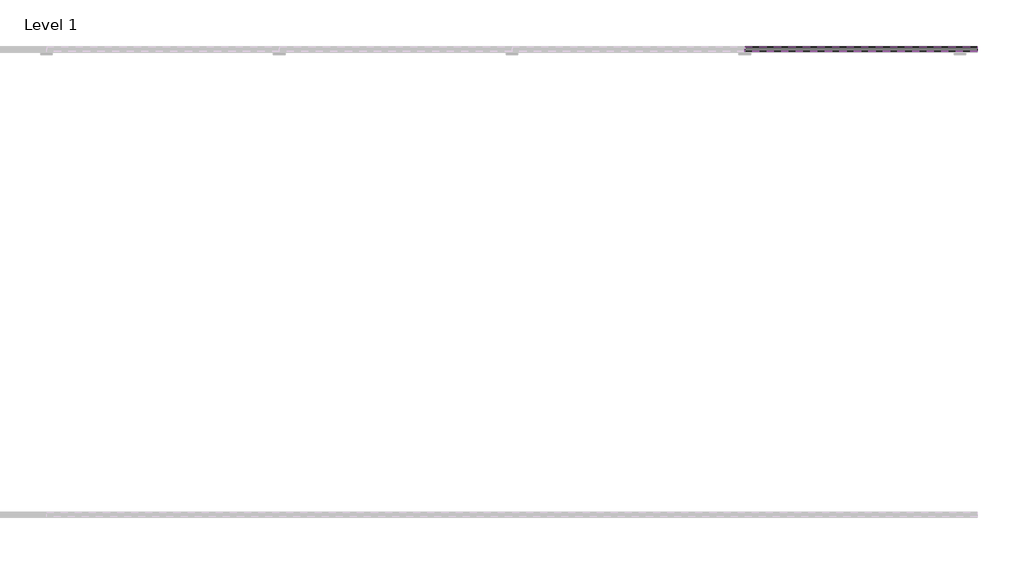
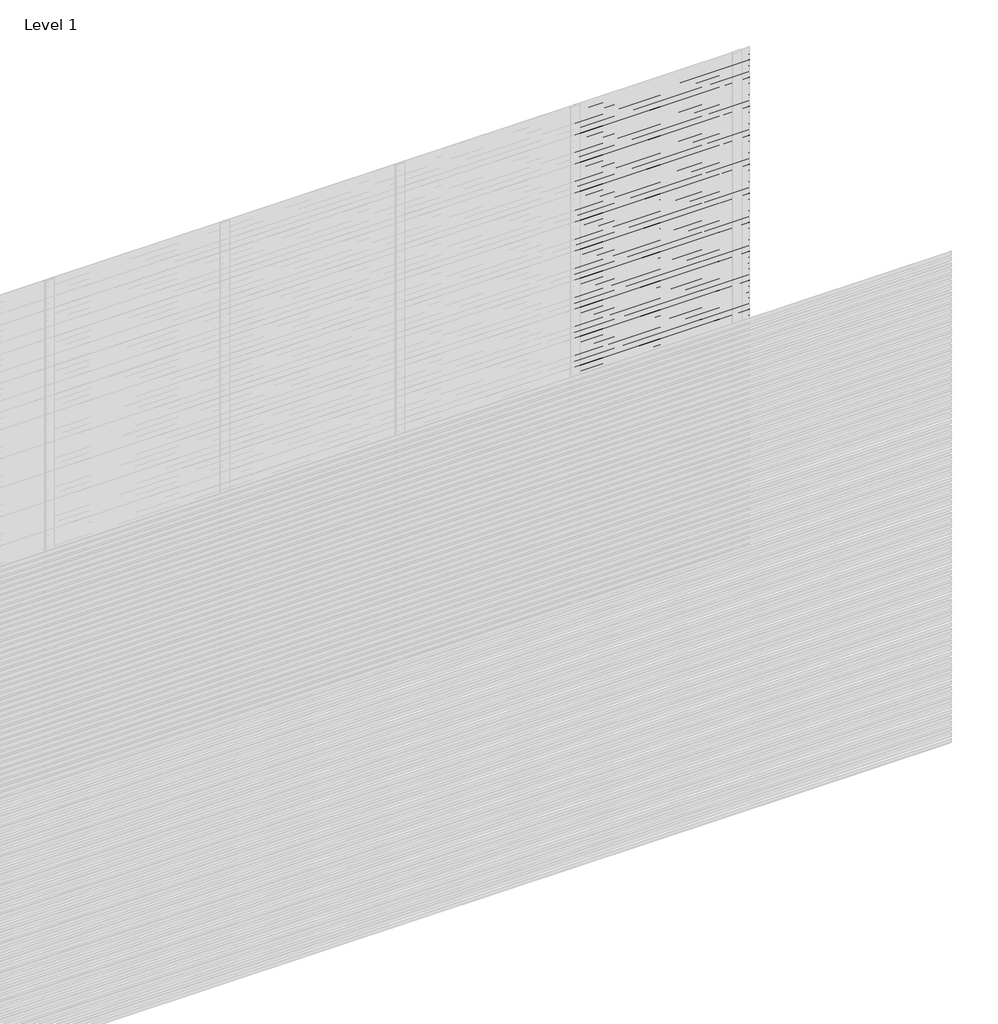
# One storey, part 25 of 25: 101 proxies.
"""IFC4 building model written with IfcOpenShell, lengths in millimetres."""

from ifc_helpers import new_model, si_unit, frame, origin, place, context, project, spatial, polyline, outline, extrude, element, save

model = new_model("IFC4")

# Units and contexts
model_context = context("Model", 3, world=origin())
ifc_project = project(units=[si_unit("LENGTHUNIT", "METRE", prefix="MILLI")], contexts=[model_context])

# Site, building, storey
site = spatial("IfcSite", under=ifc_project)
building = spatial("IfcBuilding", under=site)
storey = spatial("IfcBuildingStorey", under=building, Name="Level 1", Elevation=0.0)

# Proxies
placement = place(None, origin())
element("IfcBuildingElementProxy", 1, Name="Wall Sweeps", at=placement, inside=storey, context=model_context, shape_type="SweptSolid", body=[
    extrude(outline(polyline([(5.0, 560.0), (5.0, 548.942893), (24.0, 533.0), (24.0, 520.0), (3.0, 537.6210923), (3.0, 560.0), (5.0, 560.0)])), frame((4000.0, 0.0, 0.0), z_axis=(1.0, 0.0, 0.0), x_axis=(0.0, 1.0, 0.0)), (0.0, 0.0, 1.0), 1000.0),
])
element("IfcBuildingElementProxy", 2, Name="Wall Sweeps", at=placement, inside=storey, context=model_context, shape_type="SweptSolid", body=[
    extrude(outline(polyline([(5.0, 525.0), (5.0, 513.942893), (24.0, 498.0), (24.0, 485.0), (3.0, 502.6210923), (3.0, 525.0), (5.0, 525.0)])), frame((4000.0, 0.0, 0.0), z_axis=(1.0, 0.0, 0.0), x_axis=(0.0, 1.0, 0.0)), (0.0, 0.0, 1.0), 1000.0),
])
element("IfcBuildingElementProxy", 3, Name="Wall Sweeps", at=placement, inside=storey, context=model_context, shape_type="SweptSolid", body=[
    extrude(outline(polyline([(5.0, 490.0), (5.0, 478.942893), (24.0, 463.0), (24.0, 450.0), (3.0, 467.6210923), (3.0, 490.0), (5.0, 490.0)])), frame((4000.0, 0.0, 0.0), z_axis=(1.0, 0.0, 0.0), x_axis=(0.0, 1.0, 0.0)), (0.0, 0.0, 1.0), 1000.0),
])
element("IfcBuildingElementProxy", 4, Name="Wall Sweeps", at=placement, inside=storey, context=model_context, shape_type="SweptSolid", body=[
    extrude(outline(polyline([(5.0, 455.0), (5.0, 443.942893), (24.0, 428.0), (24.0, 415.0), (3.0, 432.6210923), (3.0, 455.0), (5.0, 455.0)])), frame((4000.0, 0.0, 0.0), z_axis=(1.0, 0.0, 0.0), x_axis=(0.0, 1.0, 0.0)), (0.0, 0.0, 1.0), 1000.0),
])
element("IfcBuildingElementProxy", 5, Name="Wall Sweeps", at=placement, inside=storey, context=model_context, shape_type="SweptSolid", body=[
    extrude(outline(polyline([(5.0, 420.0), (5.0, 408.942893), (24.0, 393.0), (24.0, 380.0), (3.0, 397.6210923), (3.0, 420.0), (5.0, 420.0)])), frame((4000.0, 0.0, 0.0), z_axis=(1.0, 0.0, 0.0), x_axis=(0.0, 1.0, 0.0)), (0.0, 0.0, 1.0), 1000.0),
])
element("IfcBuildingElementProxy", 6, Name="Wall Sweeps", at=placement, inside=storey, context=model_context, shape_type="SweptSolid", body=[
    extrude(outline(polyline([(5.0, 385.0), (5.0, 373.942893), (24.0, 358.0), (24.0, 345.0), (3.0, 362.6210923), (3.0, 385.0), (5.0, 385.0)])), frame((4000.0, 0.0, 0.0), z_axis=(1.0, 0.0, 0.0), x_axis=(0.0, 1.0, 0.0)), (0.0, 0.0, 1.0), 1000.0),
])
element("IfcBuildingElementProxy", 7, Name="Wall Sweeps", at=placement, inside=storey, context=model_context, shape_type="SweptSolid", body=[
    extrude(outline(polyline([(5.0, 350.0), (5.0, 338.942893), (24.0, 323.0), (24.0, 310.0), (3.0, 327.6210923), (3.0, 350.0), (5.0, 350.0)])), frame((4000.0, 0.0, 0.0), z_axis=(1.0, 0.0, 0.0), x_axis=(0.0, 1.0, 0.0)), (0.0, 0.0, 1.0), 1000.0),
])
element("IfcBuildingElementProxy", 8, Name="Wall Sweeps", at=placement, inside=storey, context=model_context, shape_type="SweptSolid", body=[
    extrude(outline(polyline([(5.0, 315.0), (5.0, 303.942893), (24.0, 288.0), (24.0, 275.0), (3.0, 292.6210923), (3.0, 315.0), (5.0, 315.0)])), frame((4000.0, 0.0, 0.0), z_axis=(1.0, 0.0, 0.0), x_axis=(0.0, 1.0, 0.0)), (0.0, 0.0, 1.0), 1000.0),
])
element("IfcBuildingElementProxy", 9, Name="Wall Sweeps", at=placement, inside=storey, context=model_context, shape_type="SweptSolid", body=[
    extrude(outline(polyline([(5.0, 280.0), (5.0, 268.942893), (24.0, 253.0), (24.0, 240.0), (3.0, 257.6210923), (3.0, 280.0), (5.0, 280.0)])), frame((4000.0, 0.0, 0.0), z_axis=(1.0, 0.0, 0.0), x_axis=(0.0, 1.0, 0.0)), (0.0, 0.0, 1.0), 1000.0),
])
element("IfcBuildingElementProxy", 10, Name="Wall Sweeps", at=placement, inside=storey, context=model_context, shape_type="SweptSolid", body=[
    extrude(outline(polyline([(5.0, 245.0), (5.0, 233.942893), (24.0, 218.0), (24.0, 205.0), (3.0, 222.6210923), (3.0, 245.0), (5.0, 245.0)])), frame((4000.0, 0.0, 0.0), z_axis=(1.0, 0.0, 0.0), x_axis=(0.0, 1.0, 0.0)), (0.0, 0.0, 1.0), 1000.0),
])
element("IfcBuildingElementProxy", 11, Name="Wall Sweeps", at=placement, inside=storey, context=model_context, shape_type="SweptSolid", body=[
    extrude(outline(polyline([(5.0, 210.0), (5.0, 198.942893), (24.0, 183.0), (24.0, 170.0), (3.0, 187.6210923), (3.0, 210.0), (5.0, 210.0)])), frame((4000.0, 0.0, 0.0), z_axis=(1.0, 0.0, 0.0), x_axis=(0.0, 1.0, 0.0)), (0.0, 0.0, 1.0), 1000.0),
])
element("IfcBuildingElementProxy", 12, Name="Wall Sweeps", at=placement, inside=storey, context=model_context, shape_type="SweptSolid", body=[
    extrude(outline(polyline([(5.0, 175.0), (5.0, 163.942893), (24.0, 148.0), (24.0, 135.0), (3.0, 152.6210923), (3.0, 175.0), (5.0, 175.0)])), frame((4000.0, 0.0, 0.0), z_axis=(1.0, 0.0, 0.0), x_axis=(0.0, 1.0, 0.0)), (0.0, 0.0, 1.0), 1000.0),
])
element("IfcBuildingElementProxy", 13, Name="Wall Sweeps", at=placement, inside=storey, context=model_context, shape_type="SweptSolid", body=[
    extrude(outline(polyline([(5.0, 140.0), (5.0, 128.942893), (24.0, 113.0), (24.0, 100.0), (3.0, 117.6210923), (3.0, 140.0), (5.0, 140.0)])), frame((4000.0, 0.0, 0.0), z_axis=(1.0, 0.0, 0.0), x_axis=(0.0, 1.0, 0.0)), (0.0, 0.0, 1.0), 1000.0),
])
element("IfcBuildingElementProxy", 14, Name="Wall Sweeps", at=placement, inside=storey, context=model_context, shape_type="SweptSolid", body=[
    extrude(outline(polyline([(5.0, 105.0), (5.0, 93.942893), (24.0, 78.0), (24.0, 65.0), (3.0, 82.6210923), (3.0, 105.0), (5.0, 105.0)])), frame((4000.0, 0.0, 0.0), z_axis=(1.0, 0.0, 0.0), x_axis=(0.0, 1.0, 0.0)), (0.0, 0.0, 1.0), 1000.0),
])
element("IfcBuildingElementProxy", 15, Name="Wall Sweeps", at=placement, inside=storey, context=model_context, shape_type="SweptSolid", body=[
    extrude(outline(polyline([(5.0, 70.0), (5.0, 58.942893), (24.0, 43.0), (24.0, 30.0), (3.0, 47.6210923), (3.0, 70.0), (5.0, 70.0)])), frame((4000.0, 0.0, 0.0), z_axis=(1.0, 0.0, 0.0), x_axis=(0.0, 1.0, 0.0)), (0.0, 0.0, 1.0), 1000.0),
])
element("IfcBuildingElementProxy", 16, Name="Wall Sweeps", at=placement, inside=storey, context=model_context, shape_type="SweptSolid", body=[
    extrude(outline(polyline([(5.0, 35.0), (5.0, 23.942893), (24.0, 8.0), (24.0, -5.0), (3.0, 12.6210923), (3.0, 35.0), (5.0, 35.0)])), frame((4000.0, 0.0, 0.0), z_axis=(1.0, 0.0, 0.0), x_axis=(0.0, 1.0, 0.0)), (0.0, 0.0, 1.0), 1000.0),
])
element("IfcBuildingElementProxy", 17, Name="Wall Sweeps", at=placement, inside=storey, context=model_context, shape_type="SweptSolid", body=[
    extrude(outline(polyline([(5.0, 2975.0), (5.0, 2963.942893), (24.0, 2948.0), (24.0, 2935.0), (3.0, 2952.6210923), (3.0, 2975.0), (5.0, 2975.0)])), frame((5000.0, 0.0, 0.0), z_axis=(1.0, 0.0, 0.0), x_axis=(0.0, 1.0, 0.0)), (0.0, 0.0, 1.0), 1000.0),
])
element("IfcBuildingElementProxy", 18, Name="Wall Sweeps", at=placement, inside=storey, context=model_context, shape_type="SweptSolid", body=[
    extrude(outline(polyline([(5.0, 2940.0), (5.0, 2928.942893), (24.0, 2913.0), (24.0, 2900.0), (3.0, 2917.6210923), (3.0, 2940.0), (5.0, 2940.0)])), frame((5000.0, 0.0, 0.0), z_axis=(1.0, 0.0, 0.0), x_axis=(0.0, 1.0, 0.0)), (0.0, 0.0, 1.0), 1000.0),
])
element("IfcBuildingElementProxy", 19, Name="Wall Sweeps", at=placement, inside=storey, context=model_context, shape_type="SweptSolid", body=[
    extrude(outline(polyline([(5.0, 2905.0), (5.0, 2893.942893), (24.0, 2878.0), (24.0, 2865.0), (3.0, 2882.6210923), (3.0, 2905.0), (5.0, 2905.0)])), frame((5000.0, 0.0, 0.0), z_axis=(1.0, 0.0, 0.0), x_axis=(0.0, 1.0, 0.0)), (0.0, 0.0, 1.0), 1000.0),
])
element("IfcBuildingElementProxy", 20, Name="Wall Sweeps", at=placement, inside=storey, context=model_context, shape_type="SweptSolid", body=[
    extrude(outline(polyline([(5.0, 2870.0), (5.0, 2858.942893), (24.0, 2843.0), (24.0, 2830.0), (3.0, 2847.6210923), (3.0, 2870.0), (5.0, 2870.0)])), frame((5000.0, 0.0, 0.0), z_axis=(1.0, 0.0, 0.0), x_axis=(0.0, 1.0, 0.0)), (0.0, 0.0, 1.0), 1000.0),
])
element("IfcBuildingElementProxy", 21, Name="Wall Sweeps", at=placement, inside=storey, context=model_context, shape_type="SweptSolid", body=[
    extrude(outline(polyline([(5.0, 2835.0), (5.0, 2823.942893), (24.0, 2808.0), (24.0, 2795.0), (3.0, 2812.6210923), (3.0, 2835.0), (5.0, 2835.0)])), frame((5000.0, 0.0, 0.0), z_axis=(1.0, 0.0, 0.0), x_axis=(0.0, 1.0, 0.0)), (0.0, 0.0, 1.0), 1000.0),
])
element("IfcBuildingElementProxy", 22, Name="Wall Sweeps", at=placement, inside=storey, context=model_context, shape_type="SweptSolid", body=[
    extrude(outline(polyline([(5.0, 2800.0), (5.0, 2788.942893), (24.0, 2773.0), (24.0, 2760.0), (3.0, 2777.6210923), (3.0, 2800.0), (5.0, 2800.0)])), frame((5000.0, 0.0, 0.0), z_axis=(1.0, 0.0, 0.0), x_axis=(0.0, 1.0, 0.0)), (0.0, 0.0, 1.0), 1000.0),
])
element("IfcBuildingElementProxy", 23, Name="Wall Sweeps", at=placement, inside=storey, context=model_context, shape_type="SweptSolid", body=[
    extrude(outline(polyline([(5.0, 2765.0), (5.0, 2753.942893), (24.0, 2738.0), (24.0, 2725.0), (3.0, 2742.6210923), (3.0, 2765.0), (5.0, 2765.0)])), frame((5000.0, 0.0, 0.0), z_axis=(1.0, 0.0, 0.0), x_axis=(0.0, 1.0, 0.0)), (0.0, 0.0, 1.0), 1000.0),
])
element("IfcBuildingElementProxy", 24, Name="Wall Sweeps", at=placement, inside=storey, context=model_context, shape_type="SweptSolid", body=[
    extrude(outline(polyline([(5.0, 2730.0), (5.0, 2718.942893), (24.0, 2703.0), (24.0, 2690.0), (3.0, 2707.6210923), (3.0, 2730.0), (5.0, 2730.0)])), frame((5000.0, 0.0, 0.0), z_axis=(1.0, 0.0, 0.0), x_axis=(0.0, 1.0, 0.0)), (0.0, 0.0, 1.0), 1000.0),
])
element("IfcBuildingElementProxy", 25, Name="Wall Sweeps", at=placement, inside=storey, context=model_context, shape_type="SweptSolid", body=[
    extrude(outline(polyline([(5.0, 2695.0), (5.0, 2683.942893), (24.0, 2668.0), (24.0, 2655.0), (3.0, 2672.6210923), (3.0, 2695.0), (5.0, 2695.0)])), frame((5000.0, 0.0, 0.0), z_axis=(1.0, 0.0, 0.0), x_axis=(0.0, 1.0, 0.0)), (0.0, 0.0, 1.0), 1000.0),
])
element("IfcBuildingElementProxy", 26, Name="Wall Sweeps", at=placement, inside=storey, context=model_context, shape_type="SweptSolid", body=[
    extrude(outline(polyline([(5.0, 2660.0), (5.0, 2648.942893), (24.0, 2633.0), (24.0, 2620.0), (3.0, 2637.6210923), (3.0, 2660.0), (5.0, 2660.0)])), frame((5000.0, 0.0, 0.0), z_axis=(1.0, 0.0, 0.0), x_axis=(0.0, 1.0, 0.0)), (0.0, 0.0, 1.0), 1000.0),
])
element("IfcBuildingElementProxy", 27, Name="Wall Sweeps", at=placement, inside=storey, context=model_context, shape_type="SweptSolid", body=[
    extrude(outline(polyline([(5.0, 2625.0), (5.0, 2613.942893), (24.0, 2598.0), (24.0, 2585.0), (3.0, 2602.6210923), (3.0, 2625.0), (5.0, 2625.0)])), frame((5000.0, 0.0, 0.0), z_axis=(1.0, 0.0, 0.0), x_axis=(0.0, 1.0, 0.0)), (0.0, 0.0, 1.0), 1000.0),
])
element("IfcBuildingElementProxy", 28, Name="Wall Sweeps", at=placement, inside=storey, context=model_context, shape_type="SweptSolid", body=[
    extrude(outline(polyline([(5.0, 2590.0), (5.0, 2578.942893), (24.0, 2563.0), (24.0, 2550.0), (3.0, 2567.6210923), (3.0, 2590.0), (5.0, 2590.0)])), frame((5000.0, 0.0, 0.0), z_axis=(1.0, 0.0, 0.0), x_axis=(0.0, 1.0, 0.0)), (0.0, 0.0, 1.0), 1000.0),
])
element("IfcBuildingElementProxy", 29, Name="Wall Sweeps", at=placement, inside=storey, context=model_context, shape_type="SweptSolid", body=[
    extrude(outline(polyline([(5.0, 2555.0), (5.0, 2543.942893), (24.0, 2528.0), (24.0, 2515.0), (3.0, 2532.6210923), (3.0, 2555.0), (5.0, 2555.0)])), frame((5000.0, 0.0, 0.0), z_axis=(1.0, 0.0, 0.0), x_axis=(0.0, 1.0, 0.0)), (0.0, 0.0, 1.0), 1000.0),
])
element("IfcBuildingElementProxy", 30, Name="Wall Sweeps", at=placement, inside=storey, context=model_context, shape_type="SweptSolid", body=[
    extrude(outline(polyline([(5.0, 2520.0), (5.0, 2508.942893), (24.0, 2493.0), (24.0, 2480.0), (3.0, 2497.6210923), (3.0, 2520.0), (5.0, 2520.0)])), frame((5000.0, 0.0, 0.0), z_axis=(1.0, 0.0, 0.0), x_axis=(0.0, 1.0, 0.0)), (0.0, 0.0, 1.0), 1000.0),
])
element("IfcBuildingElementProxy", 31, Name="Wall Sweeps", at=placement, inside=storey, context=model_context, shape_type="SweptSolid", body=[
    extrude(outline(polyline([(5.0, 2485.0), (5.0, 2473.942893), (24.0, 2458.0), (24.0, 2445.0), (3.0, 2462.6210923), (3.0, 2485.0), (5.0, 2485.0)])), frame((5000.0, 0.0, 0.0), z_axis=(1.0, 0.0, 0.0), x_axis=(0.0, 1.0, 0.0)), (0.0, 0.0, 1.0), 1000.0),
])
element("IfcBuildingElementProxy", 32, Name="Wall Sweeps", at=placement, inside=storey, context=model_context, shape_type="SweptSolid", body=[
    extrude(outline(polyline([(5.0, 2450.0), (5.0, 2438.942893), (24.0, 2423.0), (24.0, 2410.0), (3.0, 2427.6210923), (3.0, 2450.0), (5.0, 2450.0)])), frame((5000.0, 0.0, 0.0), z_axis=(1.0, 0.0, 0.0), x_axis=(0.0, 1.0, 0.0)), (0.0, 0.0, 1.0), 1000.0),
])
element("IfcBuildingElementProxy", 33, Name="Wall Sweeps", at=placement, inside=storey, context=model_context, shape_type="SweptSolid", body=[
    extrude(outline(polyline([(5.0, 2415.0), (5.0, 2403.942893), (24.0, 2388.0), (24.0, 2375.0), (3.0, 2392.6210923), (3.0, 2415.0), (5.0, 2415.0)])), frame((5000.0, 0.0, 0.0), z_axis=(1.0, 0.0, 0.0), x_axis=(0.0, 1.0, 0.0)), (0.0, 0.0, 1.0), 1000.0),
])
element("IfcBuildingElementProxy", 34, Name="Wall Sweeps", at=placement, inside=storey, context=model_context, shape_type="SweptSolid", body=[
    extrude(outline(polyline([(5.0, 2380.0), (5.0, 2368.942893), (24.0, 2353.0), (24.0, 2340.0), (3.0, 2357.6210923), (3.0, 2380.0), (5.0, 2380.0)])), frame((5000.0, 0.0, 0.0), z_axis=(1.0, 0.0, 0.0), x_axis=(0.0, 1.0, 0.0)), (0.0, 0.0, 1.0), 1000.0),
])
element("IfcBuildingElementProxy", 35, Name="Wall Sweeps", at=placement, inside=storey, context=model_context, shape_type="SweptSolid", body=[
    extrude(outline(polyline([(5.0, 2345.0), (5.0, 2333.942893), (24.0, 2318.0), (24.0, 2305.0), (3.0, 2322.6210923), (3.0, 2345.0), (5.0, 2345.0)])), frame((5000.0, 0.0, 0.0), z_axis=(1.0, 0.0, 0.0), x_axis=(0.0, 1.0, 0.0)), (0.0, 0.0, 1.0), 1000.0),
])
element("IfcBuildingElementProxy", 36, Name="Wall Sweeps", at=placement, inside=storey, context=model_context, shape_type="SweptSolid", body=[
    extrude(outline(polyline([(5.0, 2310.0), (5.0, 2298.942893), (24.0, 2283.0), (24.0, 2270.0), (3.0, 2287.6210923), (3.0, 2310.0), (5.0, 2310.0)])), frame((5000.0, 0.0, 0.0), z_axis=(1.0, 0.0, 0.0), x_axis=(0.0, 1.0, 0.0)), (0.0, 0.0, 1.0), 1000.0),
])
element("IfcBuildingElementProxy", 37, Name="Wall Sweeps", at=placement, inside=storey, context=model_context, shape_type="SweptSolid", body=[
    extrude(outline(polyline([(5.0, 2275.0), (5.0, 2263.942893), (24.0, 2248.0), (24.0, 2235.0), (3.0, 2252.6210923), (3.0, 2275.0), (5.0, 2275.0)])), frame((5000.0, 0.0, 0.0), z_axis=(1.0, 0.0, 0.0), x_axis=(0.0, 1.0, 0.0)), (0.0, 0.0, 1.0), 1000.0),
])
element("IfcBuildingElementProxy", 38, Name="Wall Sweeps", at=placement, inside=storey, context=model_context, shape_type="SweptSolid", body=[
    extrude(outline(polyline([(5.0, 2240.0), (5.0, 2228.942893), (24.0, 2213.0), (24.0, 2200.0), (3.0, 2217.6210923), (3.0, 2240.0), (5.0, 2240.0)])), frame((5000.0, 0.0, 0.0), z_axis=(1.0, 0.0, 0.0), x_axis=(0.0, 1.0, 0.0)), (0.0, 0.0, 1.0), 1000.0),
])
element("IfcBuildingElementProxy", 39, Name="Wall Sweeps", at=placement, inside=storey, context=model_context, shape_type="SweptSolid", body=[
    extrude(outline(polyline([(5.0, 2205.0), (5.0, 2193.942893), (24.0, 2178.0), (24.0, 2165.0), (3.0, 2182.6210923), (3.0, 2205.0), (5.0, 2205.0)])), frame((5000.0, 0.0, 0.0), z_axis=(1.0, 0.0, 0.0), x_axis=(0.0, 1.0, 0.0)), (0.0, 0.0, 1.0), 1000.0),
])
element("IfcBuildingElementProxy", 40, Name="Wall Sweeps", at=placement, inside=storey, context=model_context, shape_type="SweptSolid", body=[
    extrude(outline(polyline([(5.0, 2170.0), (5.0, 2158.942893), (24.0, 2143.0), (24.0, 2130.0), (3.0, 2147.6210923), (3.0, 2170.0), (5.0, 2170.0)])), frame((5000.0, 0.0, 0.0), z_axis=(1.0, 0.0, 0.0), x_axis=(0.0, 1.0, 0.0)), (0.0, 0.0, 1.0), 1000.0),
])
element("IfcBuildingElementProxy", 41, Name="Wall Sweeps", at=placement, inside=storey, context=model_context, shape_type="SweptSolid", body=[
    extrude(outline(polyline([(5.0, 2135.0), (5.0, 2123.942893), (24.0, 2108.0), (24.0, 2095.0), (3.0, 2112.6210923), (3.0, 2135.0), (5.0, 2135.0)])), frame((5000.0, 0.0, 0.0), z_axis=(1.0, 0.0, 0.0), x_axis=(0.0, 1.0, 0.0)), (0.0, 0.0, 1.0), 1000.0),
])
element("IfcBuildingElementProxy", 42, Name="Wall Sweeps", at=placement, inside=storey, context=model_context, shape_type="SweptSolid", body=[
    extrude(outline(polyline([(5.0, 2100.0), (5.0, 2088.942893), (24.0, 2073.0), (24.0, 2060.0), (3.0, 2077.6210923), (3.0, 2100.0), (5.0, 2100.0)])), frame((5000.0, 0.0, 0.0), z_axis=(1.0, 0.0, 0.0), x_axis=(0.0, 1.0, 0.0)), (0.0, 0.0, 1.0), 1000.0),
])
element("IfcBuildingElementProxy", 43, Name="Wall Sweeps", at=placement, inside=storey, context=model_context, shape_type="SweptSolid", body=[
    extrude(outline(polyline([(5.0, 2065.0), (5.0, 2053.942893), (24.0, 2038.0), (24.0, 2025.0), (3.0, 2042.6210923), (3.0, 2065.0), (5.0, 2065.0)])), frame((5000.0, 0.0, 0.0), z_axis=(1.0, 0.0, 0.0), x_axis=(0.0, 1.0, 0.0)), (0.0, 0.0, 1.0), 1000.0),
])
element("IfcBuildingElementProxy", 44, Name="Wall Sweeps", at=placement, inside=storey, context=model_context, shape_type="SweptSolid", body=[
    extrude(outline(polyline([(5.0, 2030.0), (5.0, 2018.942893), (24.0, 2003.0), (24.0, 1990.0), (3.0, 2007.6210923), (3.0, 2030.0), (5.0, 2030.0)])), frame((5000.0, 0.0, 0.0), z_axis=(1.0, 0.0, 0.0), x_axis=(0.0, 1.0, 0.0)), (0.0, 0.0, 1.0), 1000.0),
])
element("IfcBuildingElementProxy", 45, Name="Wall Sweeps", at=placement, inside=storey, context=model_context, shape_type="SweptSolid", body=[
    extrude(outline(polyline([(5.0, 1995.0), (5.0, 1983.942893), (24.0, 1968.0), (24.0, 1955.0), (3.0, 1972.6210923), (3.0, 1995.0), (5.0, 1995.0)])), frame((5000.0, 0.0, 0.0), z_axis=(1.0, 0.0, 0.0), x_axis=(0.0, 1.0, 0.0)), (0.0, 0.0, 1.0), 1000.0),
])
element("IfcBuildingElementProxy", 46, Name="Wall Sweeps", at=placement, inside=storey, context=model_context, shape_type="SweptSolid", body=[
    extrude(outline(polyline([(5.0, 1960.0), (5.0, 1948.942893), (24.0, 1933.0), (24.0, 1920.0), (3.0, 1937.6210923), (3.0, 1960.0), (5.0, 1960.0)])), frame((5000.0, 0.0, 0.0), z_axis=(1.0, 0.0, 0.0), x_axis=(0.0, 1.0, 0.0)), (0.0, 0.0, 1.0), 1000.0),
])
element("IfcBuildingElementProxy", 47, Name="Wall Sweeps", at=placement, inside=storey, context=model_context, shape_type="SweptSolid", body=[
    extrude(outline(polyline([(5.0, 1925.0), (5.0, 1913.942893), (24.0, 1898.0), (24.0, 1885.0), (3.0, 1902.6210923), (3.0, 1925.0), (5.0, 1925.0)])), frame((5000.0, 0.0, 0.0), z_axis=(1.0, 0.0, 0.0), x_axis=(0.0, 1.0, 0.0)), (0.0, 0.0, 1.0), 1000.0),
])
element("IfcBuildingElementProxy", 48, Name="Wall Sweeps", at=placement, inside=storey, context=model_context, shape_type="SweptSolid", body=[
    extrude(outline(polyline([(5.0, 1890.0), (5.0, 1878.942893), (24.0, 1863.0), (24.0, 1850.0), (3.0, 1867.6210923), (3.0, 1890.0), (5.0, 1890.0)])), frame((5000.0, 0.0, 0.0), z_axis=(1.0, 0.0, 0.0), x_axis=(0.0, 1.0, 0.0)), (0.0, 0.0, 1.0), 1000.0),
])
element("IfcBuildingElementProxy", 49, Name="Wall Sweeps", at=placement, inside=storey, context=model_context, shape_type="SweptSolid", body=[
    extrude(outline(polyline([(5.0, 1855.0), (5.0, 1843.942893), (24.0, 1828.0), (24.0, 1815.0), (3.0, 1832.6210923), (3.0, 1855.0), (5.0, 1855.0)])), frame((5000.0, 0.0, 0.0), z_axis=(1.0, 0.0, 0.0), x_axis=(0.0, 1.0, 0.0)), (0.0, 0.0, 1.0), 1000.0),
])
element("IfcBuildingElementProxy", 50, Name="Wall Sweeps", at=placement, inside=storey, context=model_context, shape_type="SweptSolid", body=[
    extrude(outline(polyline([(5.0, 1820.0), (5.0, 1808.942893), (24.0, 1793.0), (24.0, 1780.0), (3.0, 1797.6210923), (3.0, 1820.0), (5.0, 1820.0)])), frame((5000.0, 0.0, 0.0), z_axis=(1.0, 0.0, 0.0), x_axis=(0.0, 1.0, 0.0)), (0.0, 0.0, 1.0), 1000.0),
])
element("IfcBuildingElementProxy", 51, Name="Wall Sweeps", at=placement, inside=storey, context=model_context, shape_type="SweptSolid", body=[
    extrude(outline(polyline([(5.0, 1785.0), (5.0, 1773.942893), (24.0, 1758.0), (24.0, 1745.0), (3.0, 1762.6210923), (3.0, 1785.0), (5.0, 1785.0)])), frame((5000.0, 0.0, 0.0), z_axis=(1.0, 0.0, 0.0), x_axis=(0.0, 1.0, 0.0)), (0.0, 0.0, 1.0), 1000.0),
])
element("IfcBuildingElementProxy", 52, Name="Wall Sweeps", at=placement, inside=storey, context=model_context, shape_type="SweptSolid", body=[
    extrude(outline(polyline([(5.0, 1750.0), (5.0, 1738.942893), (24.0, 1723.0), (24.0, 1710.0), (3.0, 1727.6210923), (3.0, 1750.0), (5.0, 1750.0)])), frame((5000.0, 0.0, 0.0), z_axis=(1.0, 0.0, 0.0), x_axis=(0.0, 1.0, 0.0)), (0.0, 0.0, 1.0), 1000.0),
])
element("IfcBuildingElementProxy", 53, Name="Wall Sweeps", at=placement, inside=storey, context=model_context, shape_type="SweptSolid", body=[
    extrude(outline(polyline([(5.0, 1715.0), (5.0, 1703.942893), (24.0, 1688.0), (24.0, 1675.0), (3.0, 1692.6210923), (3.0, 1715.0), (5.0, 1715.0)])), frame((5000.0, 0.0, 0.0), z_axis=(1.0, 0.0, 0.0), x_axis=(0.0, 1.0, 0.0)), (0.0, 0.0, 1.0), 1000.0),
])
element("IfcBuildingElementProxy", 54, Name="Wall Sweeps", at=placement, inside=storey, context=model_context, shape_type="SweptSolid", body=[
    extrude(outline(polyline([(5.0, 1680.0), (5.0, 1668.942893), (24.0, 1653.0), (24.0, 1640.0), (3.0, 1657.6210923), (3.0, 1680.0), (5.0, 1680.0)])), frame((5000.0, 0.0, 0.0), z_axis=(1.0, 0.0, 0.0), x_axis=(0.0, 1.0, 0.0)), (0.0, 0.0, 1.0), 1000.0),
])
element("IfcBuildingElementProxy", 55, Name="Wall Sweeps", at=placement, inside=storey, context=model_context, shape_type="SweptSolid", body=[
    extrude(outline(polyline([(5.0, 1645.0), (5.0, 1633.942893), (24.0, 1618.0), (24.0, 1605.0), (3.0, 1622.6210923), (3.0, 1645.0), (5.0, 1645.0)])), frame((5000.0, 0.0, 0.0), z_axis=(1.0, 0.0, 0.0), x_axis=(0.0, 1.0, 0.0)), (0.0, 0.0, 1.0), 1000.0),
])
element("IfcBuildingElementProxy", 56, Name="Wall Sweeps", at=placement, inside=storey, context=model_context, shape_type="SweptSolid", body=[
    extrude(outline(polyline([(5.0, 1610.0), (5.0, 1598.942893), (24.0, 1583.0), (24.0, 1570.0), (3.0, 1587.6210923), (3.0, 1610.0), (5.0, 1610.0)])), frame((5000.0, 0.0, 0.0), z_axis=(1.0, 0.0, 0.0), x_axis=(0.0, 1.0, 0.0)), (0.0, 0.0, 1.0), 1000.0),
])
element("IfcBuildingElementProxy", 57, Name="Wall Sweeps", at=placement, inside=storey, context=model_context, shape_type="SweptSolid", body=[
    extrude(outline(polyline([(5.0, 1575.0), (5.0, 1563.942893), (24.0, 1548.0), (24.0, 1535.0), (3.0, 1552.6210923), (3.0, 1575.0), (5.0, 1575.0)])), frame((5000.0, 0.0, 0.0), z_axis=(1.0, 0.0, 0.0), x_axis=(0.0, 1.0, 0.0)), (0.0, 0.0, 1.0), 1000.0),
])
element("IfcBuildingElementProxy", 58, Name="Wall Sweeps", at=placement, inside=storey, context=model_context, shape_type="SweptSolid", body=[
    extrude(outline(polyline([(5.0, 1540.0), (5.0, 1528.942893), (24.0, 1513.0), (24.0, 1500.0), (3.0, 1517.6210923), (3.0, 1540.0), (5.0, 1540.0)])), frame((5000.0, 0.0, 0.0), z_axis=(1.0, 0.0, 0.0), x_axis=(0.0, 1.0, 0.0)), (0.0, 0.0, 1.0), 1000.0),
])
element("IfcBuildingElementProxy", 59, Name="Wall Sweeps", at=placement, inside=storey, context=model_context, shape_type="SweptSolid", body=[
    extrude(outline(polyline([(5.0, 1505.0), (5.0, 1493.942893), (24.0, 1478.0), (24.0, 1465.0), (3.0, 1482.6210923), (3.0, 1505.0), (5.0, 1505.0)])), frame((5000.0, 0.0, 0.0), z_axis=(1.0, 0.0, 0.0), x_axis=(0.0, 1.0, 0.0)), (0.0, 0.0, 1.0), 1000.0),
])
element("IfcBuildingElementProxy", 60, Name="Wall Sweeps", at=placement, inside=storey, context=model_context, shape_type="SweptSolid", body=[
    extrude(outline(polyline([(5.0, 1470.0), (5.0, 1458.942893), (24.0, 1443.0), (24.0, 1430.0), (3.0, 1447.6210923), (3.0, 1470.0), (5.0, 1470.0)])), frame((5000.0, 0.0, 0.0), z_axis=(1.0, 0.0, 0.0), x_axis=(0.0, 1.0, 0.0)), (0.0, 0.0, 1.0), 1000.0),
])
element("IfcBuildingElementProxy", 61, Name="Wall Sweeps", at=placement, inside=storey, context=model_context, shape_type="SweptSolid", body=[
    extrude(outline(polyline([(5.0, 1435.0), (5.0, 1423.942893), (24.0, 1408.0), (24.0, 1395.0), (3.0, 1412.6210923), (3.0, 1435.0), (5.0, 1435.0)])), frame((5000.0, 0.0, 0.0), z_axis=(1.0, 0.0, 0.0), x_axis=(0.0, 1.0, 0.0)), (0.0, 0.0, 1.0), 1000.0),
])
element("IfcBuildingElementProxy", 62, Name="Wall Sweeps", at=placement, inside=storey, context=model_context, shape_type="SweptSolid", body=[
    extrude(outline(polyline([(5.0, 1400.0), (5.0, 1388.942893), (24.0, 1373.0), (24.0, 1360.0), (3.0, 1377.6210923), (3.0, 1400.0), (5.0, 1400.0)])), frame((5000.0, 0.0, 0.0), z_axis=(1.0, 0.0, 0.0), x_axis=(0.0, 1.0, 0.0)), (0.0, 0.0, 1.0), 1000.0),
])
element("IfcBuildingElementProxy", 63, Name="Wall Sweeps", at=placement, inside=storey, context=model_context, shape_type="SweptSolid", body=[
    extrude(outline(polyline([(5.0, 1365.0), (5.0, 1353.942893), (24.0, 1338.0), (24.0, 1325.0), (3.0, 1342.6210923), (3.0, 1365.0), (5.0, 1365.0)])), frame((5000.0, 0.0, 0.0), z_axis=(1.0, 0.0, 0.0), x_axis=(0.0, 1.0, 0.0)), (0.0, 0.0, 1.0), 1000.0),
])
element("IfcBuildingElementProxy", 64, Name="Wall Sweeps", at=placement, inside=storey, context=model_context, shape_type="SweptSolid", body=[
    extrude(outline(polyline([(5.0, 1330.0), (5.0, 1318.942893), (24.0, 1303.0), (24.0, 1290.0), (3.0, 1307.6210923), (3.0, 1330.0), (5.0, 1330.0)])), frame((5000.0, 0.0, 0.0), z_axis=(1.0, 0.0, 0.0), x_axis=(0.0, 1.0, 0.0)), (0.0, 0.0, 1.0), 1000.0),
])
element("IfcBuildingElementProxy", 65, Name="Wall Sweeps", at=placement, inside=storey, context=model_context, shape_type="SweptSolid", body=[
    extrude(outline(polyline([(5.0, 1295.0), (5.0, 1283.942893), (24.0, 1268.0), (24.0, 1255.0), (3.0, 1272.6210923), (3.0, 1295.0), (5.0, 1295.0)])), frame((5000.0, 0.0, 0.0), z_axis=(1.0, 0.0, 0.0), x_axis=(0.0, 1.0, 0.0)), (0.0, 0.0, 1.0), 1000.0),
])
element("IfcBuildingElementProxy", 66, Name="Wall Sweeps", at=placement, inside=storey, context=model_context, shape_type="SweptSolid", body=[
    extrude(outline(polyline([(5.0, 1260.0), (5.0, 1248.942893), (24.0, 1233.0), (24.0, 1220.0), (3.0, 1237.6210923), (3.0, 1260.0), (5.0, 1260.0)])), frame((5000.0, 0.0, 0.0), z_axis=(1.0, 0.0, 0.0), x_axis=(0.0, 1.0, 0.0)), (0.0, 0.0, 1.0), 1000.0),
])
element("IfcBuildingElementProxy", 67, Name="Wall Sweeps", at=placement, inside=storey, context=model_context, shape_type="SweptSolid", body=[
    extrude(outline(polyline([(5.0, 1225.0), (5.0, 1213.942893), (24.0, 1198.0), (24.0, 1185.0), (3.0, 1202.6210923), (3.0, 1225.0), (5.0, 1225.0)])), frame((5000.0, 0.0, 0.0), z_axis=(1.0, 0.0, 0.0), x_axis=(0.0, 1.0, 0.0)), (0.0, 0.0, 1.0), 1000.0),
])
element("IfcBuildingElementProxy", 68, Name="Wall Sweeps", at=placement, inside=storey, context=model_context, shape_type="SweptSolid", body=[
    extrude(outline(polyline([(5.0, 1190.0), (5.0, 1178.942893), (24.0, 1163.0), (24.0, 1150.0), (3.0, 1167.6210923), (3.0, 1190.0), (5.0, 1190.0)])), frame((5000.0, 0.0, 0.0), z_axis=(1.0, 0.0, 0.0), x_axis=(0.0, 1.0, 0.0)), (0.0, 0.0, 1.0), 1000.0),
])
element("IfcBuildingElementProxy", 69, Name="Wall Sweeps", at=placement, inside=storey, context=model_context, shape_type="SweptSolid", body=[
    extrude(outline(polyline([(5.0, 1155.0), (5.0, 1143.942893), (24.0, 1128.0), (24.0, 1115.0), (3.0, 1132.6210923), (3.0, 1155.0), (5.0, 1155.0)])), frame((5000.0, 0.0, 0.0), z_axis=(1.0, 0.0, 0.0), x_axis=(0.0, 1.0, 0.0)), (0.0, 0.0, 1.0), 1000.0),
])
element("IfcBuildingElementProxy", 70, Name="Wall Sweeps", at=placement, inside=storey, context=model_context, shape_type="SweptSolid", body=[
    extrude(outline(polyline([(5.0, 1120.0), (5.0, 1108.942893), (24.0, 1093.0), (24.0, 1080.0), (3.0, 1097.6210923), (3.0, 1120.0), (5.0, 1120.0)])), frame((5000.0, 0.0, 0.0), z_axis=(1.0, 0.0, 0.0), x_axis=(0.0, 1.0, 0.0)), (0.0, 0.0, 1.0), 1000.0),
])
element("IfcBuildingElementProxy", 71, Name="Wall Sweeps", at=placement, inside=storey, context=model_context, shape_type="SweptSolid", body=[
    extrude(outline(polyline([(5.0, 1085.0), (5.0, 1073.942893), (24.0, 1058.0), (24.0, 1045.0), (3.0, 1062.6210923), (3.0, 1085.0), (5.0, 1085.0)])), frame((5000.0, 0.0, 0.0), z_axis=(1.0, 0.0, 0.0), x_axis=(0.0, 1.0, 0.0)), (0.0, 0.0, 1.0), 1000.0),
])
element("IfcBuildingElementProxy", 72, Name="Wall Sweeps", at=placement, inside=storey, context=model_context, shape_type="SweptSolid", body=[
    extrude(outline(polyline([(5.0, 1050.0), (5.0, 1038.942893), (24.0, 1023.0), (24.0, 1010.0), (3.0, 1027.6210923), (3.0, 1050.0), (5.0, 1050.0)])), frame((5000.0, 0.0, 0.0), z_axis=(1.0, 0.0, 0.0), x_axis=(0.0, 1.0, 0.0)), (0.0, 0.0, 1.0), 1000.0),
])
element("IfcBuildingElementProxy", 73, Name="Wall Sweeps", at=placement, inside=storey, context=model_context, shape_type="SweptSolid", body=[
    extrude(outline(polyline([(5.0, 1015.0), (5.0, 1003.942893), (24.0, 988.0), (24.0, 975.0), (3.0, 992.6210923), (3.0, 1015.0), (5.0, 1015.0)])), frame((5000.0, 0.0, 0.0), z_axis=(1.0, 0.0, 0.0), x_axis=(0.0, 1.0, 0.0)), (0.0, 0.0, 1.0), 1000.0),
])
element("IfcBuildingElementProxy", 74, Name="Wall Sweeps", at=placement, inside=storey, context=model_context, shape_type="SweptSolid", body=[
    extrude(outline(polyline([(5.0, 980.0), (5.0, 968.942893), (24.0, 953.0), (24.0, 940.0), (3.0, 957.6210923), (3.0, 980.0), (5.0, 980.0)])), frame((5000.0, 0.0, 0.0), z_axis=(1.0, 0.0, 0.0), x_axis=(0.0, 1.0, 0.0)), (0.0, 0.0, 1.0), 1000.0),
])
element("IfcBuildingElementProxy", 75, Name="Wall Sweeps", at=placement, inside=storey, context=model_context, shape_type="SweptSolid", body=[
    extrude(outline(polyline([(5.0, 945.0), (5.0, 933.942893), (24.0, 918.0), (24.0, 905.0), (3.0, 922.6210923), (3.0, 945.0), (5.0, 945.0)])), frame((5000.0, 0.0, 0.0), z_axis=(1.0, 0.0, 0.0), x_axis=(0.0, 1.0, 0.0)), (0.0, 0.0, 1.0), 1000.0),
])
element("IfcBuildingElementProxy", 76, Name="Wall Sweeps", at=placement, inside=storey, context=model_context, shape_type="SweptSolid", body=[
    extrude(outline(polyline([(5.0, 910.0), (5.0, 898.942893), (24.0, 883.0), (24.0, 870.0), (3.0, 887.6210923), (3.0, 910.0), (5.0, 910.0)])), frame((5000.0, 0.0, 0.0), z_axis=(1.0, 0.0, 0.0), x_axis=(0.0, 1.0, 0.0)), (0.0, 0.0, 1.0), 1000.0),
])
element("IfcBuildingElementProxy", 77, Name="Wall Sweeps", at=placement, inside=storey, context=model_context, shape_type="SweptSolid", body=[
    extrude(outline(polyline([(5.0, 875.0), (5.0, 863.942893), (24.0, 848.0), (24.0, 835.0), (3.0, 852.6210923), (3.0, 875.0), (5.0, 875.0)])), frame((5000.0, 0.0, 0.0), z_axis=(1.0, 0.0, 0.0), x_axis=(0.0, 1.0, 0.0)), (0.0, 0.0, 1.0), 1000.0),
])
element("IfcBuildingElementProxy", 78, Name="Wall Sweeps", at=placement, inside=storey, context=model_context, shape_type="SweptSolid", body=[
    extrude(outline(polyline([(5.0, 840.0), (5.0, 828.942893), (24.0, 813.0), (24.0, 800.0), (3.0, 817.6210923), (3.0, 840.0), (5.0, 840.0)])), frame((5000.0, 0.0, 0.0), z_axis=(1.0, 0.0, 0.0), x_axis=(0.0, 1.0, 0.0)), (0.0, 0.0, 1.0), 1000.0),
])
element("IfcBuildingElementProxy", 79, Name="Wall Sweeps", at=placement, inside=storey, context=model_context, shape_type="SweptSolid", body=[
    extrude(outline(polyline([(5.0, 805.0), (5.0, 793.942893), (24.0, 778.0), (24.0, 765.0), (3.0, 782.6210923), (3.0, 805.0), (5.0, 805.0)])), frame((5000.0, 0.0, 0.0), z_axis=(1.0, 0.0, 0.0), x_axis=(0.0, 1.0, 0.0)), (0.0, 0.0, 1.0), 1000.0),
])
element("IfcBuildingElementProxy", 80, Name="Wall Sweeps", at=placement, inside=storey, context=model_context, shape_type="SweptSolid", body=[
    extrude(outline(polyline([(5.0, 770.0), (5.0, 758.942893), (24.0, 743.0), (24.0, 730.0), (3.0, 747.6210923), (3.0, 770.0), (5.0, 770.0)])), frame((5000.0, 0.0, 0.0), z_axis=(1.0, 0.0, 0.0), x_axis=(0.0, 1.0, 0.0)), (0.0, 0.0, 1.0), 1000.0),
])
element("IfcBuildingElementProxy", 81, Name="Wall Sweeps", at=placement, inside=storey, context=model_context, shape_type="SweptSolid", body=[
    extrude(outline(polyline([(5.0, 735.0), (5.0, 723.942893), (24.0, 708.0), (24.0, 695.0), (3.0, 712.6210923), (3.0, 735.0), (5.0, 735.0)])), frame((5000.0, 0.0, 0.0), z_axis=(1.0, 0.0, 0.0), x_axis=(0.0, 1.0, 0.0)), (0.0, 0.0, 1.0), 1000.0),
])
element("IfcBuildingElementProxy", 82, Name="Wall Sweeps", at=placement, inside=storey, context=model_context, shape_type="SweptSolid", body=[
    extrude(outline(polyline([(5.0, 700.0), (5.0, 688.942893), (24.0, 673.0), (24.0, 660.0), (3.0, 677.6210923), (3.0, 700.0), (5.0, 700.0)])), frame((5000.0, 0.0, 0.0), z_axis=(1.0, 0.0, 0.0), x_axis=(0.0, 1.0, 0.0)), (0.0, 0.0, 1.0), 1000.0),
])
element("IfcBuildingElementProxy", 83, Name="Wall Sweeps", at=placement, inside=storey, context=model_context, shape_type="SweptSolid", body=[
    extrude(outline(polyline([(5.0, 665.0), (5.0, 653.942893), (24.0, 638.0), (24.0, 625.0), (3.0, 642.6210923), (3.0, 665.0), (5.0, 665.0)])), frame((5000.0, 0.0, 0.0), z_axis=(1.0, 0.0, 0.0), x_axis=(0.0, 1.0, 0.0)), (0.0, 0.0, 1.0), 1000.0),
])
element("IfcBuildingElementProxy", 84, Name="Wall Sweeps", at=placement, inside=storey, context=model_context, shape_type="SweptSolid", body=[
    extrude(outline(polyline([(5.0, 630.0), (5.0, 618.942893), (24.0, 603.0), (24.0, 590.0), (3.0, 607.6210923), (3.0, 630.0), (5.0, 630.0)])), frame((5000.0, 0.0, 0.0), z_axis=(1.0, 0.0, 0.0), x_axis=(0.0, 1.0, 0.0)), (0.0, 0.0, 1.0), 1000.0),
])
element("IfcBuildingElementProxy", 85, Name="Wall Sweeps", at=placement, inside=storey, context=model_context, shape_type="SweptSolid", body=[
    extrude(outline(polyline([(5.0, 595.0), (5.0, 583.942893), (24.0, 568.0), (24.0, 555.0), (3.0, 572.6210923), (3.0, 595.0), (5.0, 595.0)])), frame((5000.0, 0.0, 0.0), z_axis=(1.0, 0.0, 0.0), x_axis=(0.0, 1.0, 0.0)), (0.0, 0.0, 1.0), 1000.0),
])
element("IfcBuildingElementProxy", 86, Name="Wall Sweeps", at=placement, inside=storey, context=model_context, shape_type="SweptSolid", body=[
    extrude(outline(polyline([(5.0, 560.0), (5.0, 548.942893), (24.0, 533.0), (24.0, 520.0), (3.0, 537.6210923), (3.0, 560.0), (5.0, 560.0)])), frame((5000.0, 0.0, 0.0), z_axis=(1.0, 0.0, 0.0), x_axis=(0.0, 1.0, 0.0)), (0.0, 0.0, 1.0), 1000.0),
])
element("IfcBuildingElementProxy", 87, Name="Wall Sweeps", at=placement, inside=storey, context=model_context, shape_type="SweptSolid", body=[
    extrude(outline(polyline([(5.0, 525.0), (5.0, 513.942893), (24.0, 498.0), (24.0, 485.0), (3.0, 502.6210923), (3.0, 525.0), (5.0, 525.0)])), frame((5000.0, 0.0, 0.0), z_axis=(1.0, 0.0, 0.0), x_axis=(0.0, 1.0, 0.0)), (0.0, 0.0, 1.0), 1000.0),
])
element("IfcBuildingElementProxy", 88, Name="Wall Sweeps", at=placement, inside=storey, context=model_context, shape_type="SweptSolid", body=[
    extrude(outline(polyline([(5.0, 490.0), (5.0, 478.942893), (24.0, 463.0), (24.0, 450.0), (3.0, 467.6210923), (3.0, 490.0), (5.0, 490.0)])), frame((5000.0, 0.0, 0.0), z_axis=(1.0, 0.0, 0.0), x_axis=(0.0, 1.0, 0.0)), (0.0, 0.0, 1.0), 1000.0),
])
element("IfcBuildingElementProxy", 89, Name="Wall Sweeps", at=placement, inside=storey, context=model_context, shape_type="SweptSolid", body=[
    extrude(outline(polyline([(5.0, 455.0), (5.0, 443.942893), (24.0, 428.0), (24.0, 415.0), (3.0, 432.6210923), (3.0, 455.0), (5.0, 455.0)])), frame((5000.0, 0.0, 0.0), z_axis=(1.0, 0.0, 0.0), x_axis=(0.0, 1.0, 0.0)), (0.0, 0.0, 1.0), 1000.0),
])
element("IfcBuildingElementProxy", 90, Name="Wall Sweeps", at=placement, inside=storey, context=model_context, shape_type="SweptSolid", body=[
    extrude(outline(polyline([(5.0, 420.0), (5.0, 408.942893), (24.0, 393.0), (24.0, 380.0), (3.0, 397.6210923), (3.0, 420.0), (5.0, 420.0)])), frame((5000.0, 0.0, 0.0), z_axis=(1.0, 0.0, 0.0), x_axis=(0.0, 1.0, 0.0)), (0.0, 0.0, 1.0), 1000.0),
])
element("IfcBuildingElementProxy", 91, Name="Wall Sweeps", at=placement, inside=storey, context=model_context, shape_type="SweptSolid", body=[
    extrude(outline(polyline([(5.0, 385.0), (5.0, 373.942893), (24.0, 358.0), (24.0, 345.0), (3.0, 362.6210923), (3.0, 385.0), (5.0, 385.0)])), frame((5000.0, 0.0, 0.0), z_axis=(1.0, 0.0, 0.0), x_axis=(0.0, 1.0, 0.0)), (0.0, 0.0, 1.0), 1000.0),
])
element("IfcBuildingElementProxy", 92, Name="Wall Sweeps", at=placement, inside=storey, context=model_context, shape_type="SweptSolid", body=[
    extrude(outline(polyline([(5.0, 350.0), (5.0, 338.942893), (24.0, 323.0), (24.0, 310.0), (3.0, 327.6210923), (3.0, 350.0), (5.0, 350.0)])), frame((5000.0, 0.0, 0.0), z_axis=(1.0, 0.0, 0.0), x_axis=(0.0, 1.0, 0.0)), (0.0, 0.0, 1.0), 1000.0),
])
element("IfcBuildingElementProxy", 93, Name="Wall Sweeps", at=placement, inside=storey, context=model_context, shape_type="SweptSolid", body=[
    extrude(outline(polyline([(5.0, 315.0), (5.0, 303.942893), (24.0, 288.0), (24.0, 275.0), (3.0, 292.6210923), (3.0, 315.0), (5.0, 315.0)])), frame((5000.0, 0.0, 0.0), z_axis=(1.0, 0.0, 0.0), x_axis=(0.0, 1.0, 0.0)), (0.0, 0.0, 1.0), 1000.0),
])
element("IfcBuildingElementProxy", 94, Name="Wall Sweeps", at=placement, inside=storey, context=model_context, shape_type="SweptSolid", body=[
    extrude(outline(polyline([(5.0, 280.0), (5.0, 268.942893), (24.0, 253.0), (24.0, 240.0), (3.0, 257.6210923), (3.0, 280.0), (5.0, 280.0)])), frame((5000.0, 0.0, 0.0), z_axis=(1.0, 0.0, 0.0), x_axis=(0.0, 1.0, 0.0)), (0.0, 0.0, 1.0), 1000.0),
])
element("IfcBuildingElementProxy", 95, Name="Wall Sweeps", at=placement, inside=storey, context=model_context, shape_type="SweptSolid", body=[
    extrude(outline(polyline([(5.0, 245.0), (5.0, 233.942893), (24.0, 218.0), (24.0, 205.0), (3.0, 222.6210923), (3.0, 245.0), (5.0, 245.0)])), frame((5000.0, 0.0, 0.0), z_axis=(1.0, 0.0, 0.0), x_axis=(0.0, 1.0, 0.0)), (0.0, 0.0, 1.0), 1000.0),
])
element("IfcBuildingElementProxy", 96, Name="Wall Sweeps", at=placement, inside=storey, context=model_context, shape_type="SweptSolid", body=[
    extrude(outline(polyline([(5.0, 210.0), (5.0, 198.942893), (24.0, 183.0), (24.0, 170.0), (3.0, 187.6210923), (3.0, 210.0), (5.0, 210.0)])), frame((5000.0, 0.0, 0.0), z_axis=(1.0, 0.0, 0.0), x_axis=(0.0, 1.0, 0.0)), (0.0, 0.0, 1.0), 1000.0),
])
element("IfcBuildingElementProxy", 97, Name="Wall Sweeps", at=placement, inside=storey, context=model_context, shape_type="SweptSolid", body=[
    extrude(outline(polyline([(5.0, 175.0), (5.0, 163.942893), (24.0, 148.0), (24.0, 135.0), (3.0, 152.6210923), (3.0, 175.0), (5.0, 175.0)])), frame((5000.0, 0.0, 0.0), z_axis=(1.0, 0.0, 0.0), x_axis=(0.0, 1.0, 0.0)), (0.0, 0.0, 1.0), 1000.0),
])
element("IfcBuildingElementProxy", 98, Name="Wall Sweeps", at=placement, inside=storey, context=model_context, shape_type="SweptSolid", body=[
    extrude(outline(polyline([(5.0, 140.0), (5.0, 128.942893), (24.0, 113.0), (24.0, 100.0), (3.0, 117.6210923), (3.0, 140.0), (5.0, 140.0)])), frame((5000.0, 0.0, 0.0), z_axis=(1.0, 0.0, 0.0), x_axis=(0.0, 1.0, 0.0)), (0.0, 0.0, 1.0), 1000.0),
])
element("IfcBuildingElementProxy", 99, Name="Wall Sweeps", at=placement, inside=storey, context=model_context, shape_type="SweptSolid", body=[
    extrude(outline(polyline([(5.0, 105.0), (5.0, 93.942893), (24.0, 78.0), (24.0, 65.0), (3.0, 82.6210923), (3.0, 105.0), (5.0, 105.0)])), frame((5000.0, 0.0, 0.0), z_axis=(1.0, 0.0, 0.0), x_axis=(0.0, 1.0, 0.0)), (0.0, 0.0, 1.0), 1000.0),
])
element("IfcBuildingElementProxy", 100, Name="Wall Sweeps", at=placement, inside=storey, context=model_context, shape_type="SweptSolid", body=[
    extrude(outline(polyline([(5.0, 70.0), (5.0, 58.942893), (24.0, 43.0), (24.0, 30.0), (3.0, 47.6210923), (3.0, 70.0), (5.0, 70.0)])), frame((5000.0, 0.0, 0.0), z_axis=(1.0, 0.0, 0.0), x_axis=(0.0, 1.0, 0.0)), (0.0, 0.0, 1.0), 1000.0),
])
element("IfcBuildingElementProxy", 101, Name="Wall Sweeps", at=placement, inside=storey, context=model_context, shape_type="SweptSolid", body=[
    extrude(outline(polyline([(5.0, 35.0), (5.0, 23.942893), (24.0, 8.0), (24.0, -5.0), (3.0, 12.6210923), (3.0, 35.0), (5.0, 35.0)])), frame((5000.0, 0.0, 0.0), z_axis=(1.0, 0.0, 0.0), x_axis=(0.0, 1.0, 0.0)), (0.0, 0.0, 1.0), 1000.0),
])

save(model, "model.ifc")
